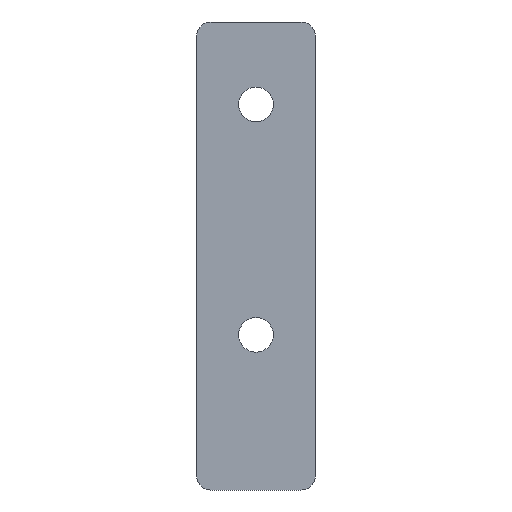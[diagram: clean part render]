
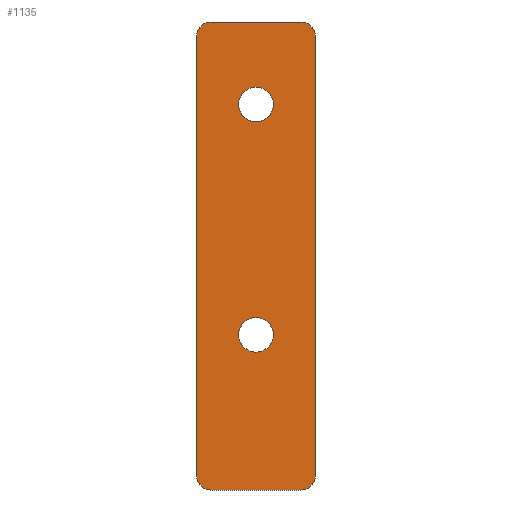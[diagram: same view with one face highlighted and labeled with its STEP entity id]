
A CAD part, front view. The second image highlights one B-rep face of the part: STEP entity #1135.
In plain terms, the highlighted planar face has unit normal (0, -1, 0).
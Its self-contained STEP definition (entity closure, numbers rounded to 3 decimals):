
#1 = CARTESIAN_POINT ( 'NONE',  ( -2.4, -0.3, -6.995 ) ) ;
#50 = DIRECTION ( 'NONE',  ( 1., 0., 0. ) ) ;
#55 = ORIENTED_EDGE ( 'NONE', *, *, #911, .T. ) ;
#78 = VERTEX_POINT ( 'NONE', #1688 ) ;
#95 = CARTESIAN_POINT ( 'NONE',  ( 6.25, -0.3, -28.545 ) ) ;
#140 = DIRECTION ( 'NONE',  ( 0., -1., 0. ) ) ;
#149 = DIRECTION ( 'NONE',  ( 1., 0., 0. ) ) ;
#159 = VECTOR ( 'NONE', #724, 1000. ) ;
#174 = DIRECTION ( 'NONE',  ( 0., 0., 1. ) ) ;
#186 = EDGE_CURVE ( 'NONE', #1291, #749, #493, .T. ) ;
#189 = VERTEX_POINT ( 'NONE', #825 ) ;
#190 = ORIENTED_EDGE ( 'NONE', *, *, #686, .F. ) ;
#194 = CARTESIAN_POINT ( 'NONE',  ( 6.25, -0.3, -26.545 ) ) ;
#208 = CIRCLE ( 'NONE', #1781, 2.4 ) ;
#226 = CARTESIAN_POINT ( 'NONE',  ( -8.25, -0.3, -44.995 ) ) ;
#232 = DIRECTION ( 'NONE',  ( 0., -1., 0. ) ) ;
#244 = EDGE_CURVE ( 'NONE', #1536, #843, #1428, .T. ) ;
#249 = DIRECTION ( 'NONE',  ( 0., -1., 0. ) ) ;
#281 = ORIENTED_EDGE ( 'NONE', *, *, #767, .F. ) ;
#295 = FACE_BOUND ( 'NONE', #1634, .T. ) ;
#299 = CARTESIAN_POINT ( 'NONE',  ( -6.25, -0.3, 34.455 ) ) ;
#330 = VECTOR ( 'NONE', #1454, 1000. ) ;
#376 = CARTESIAN_POINT ( 'NONE',  ( 2.4, -0.3, -6.995 ) ) ;
#400 = DIRECTION ( 'NONE',  ( 1., 0., 0. ) ) ;
#415 = VERTEX_POINT ( 'NONE', #625 ) ;
#453 = CARTESIAN_POINT ( 'NONE',  ( -8.25, -0.3, 34.455 ) ) ;
#473 = EDGE_LOOP ( 'NONE', ( #830, #190 ) ) ;
#493 = CIRCLE ( 'NONE', #1755, 2. ) ;
#506 = CARTESIAN_POINT ( 'NONE',  ( 8.25, -0.3, -28.545 ) ) ;
#549 = PLANE ( 'NONE',  #1705 ) ;
#559 = DIRECTION ( 'NONE',  ( 1., 0., 0. ) ) ;
#622 = LINE ( 'NONE', #1724, #983 ) ;
#625 = CARTESIAN_POINT ( 'NONE',  ( -6.25, -0.3, 36.455 ) ) ;
#647 = EDGE_CURVE ( 'NONE', #415, #1243, #996, .T. ) ;
#686 = EDGE_CURVE ( 'NONE', #843, #1536, #208, .T. ) ;
#697 = ORIENTED_EDGE ( 'NONE', *, *, #1255, .T. ) ;
#703 = FACE_OUTER_BOUND ( 'NONE', #1202, .T. ) ;
#723 = DIRECTION ( 'NONE',  ( 0., -1., 0. ) ) ;
#724 = DIRECTION ( 'NONE',  ( -1., 0., 0. ) ) ;
#739 = LINE ( 'NONE', #226, #330 ) ;
#749 = VERTEX_POINT ( 'NONE', #1102 ) ;
#760 = CARTESIAN_POINT ( 'NONE',  ( -2.4, -0.3, 25.005 ) ) ;
#767 = EDGE_CURVE ( 'NONE', #888, #1447, #899, .T. ) ;
#799 = CIRCLE ( 'NONE', #944, 2.4 ) ;
#813 = CARTESIAN_POINT ( 'NONE',  ( 6.25, -0.3, 34.455 ) ) ;
#825 = CARTESIAN_POINT ( 'NONE',  ( -8.25, -0.3, -26.545 ) ) ;
#830 = ORIENTED_EDGE ( 'NONE', *, *, #244, .F. ) ;
#837 = DIRECTION ( 'NONE',  ( 0., -1., 0. ) ) ;
#843 = VERTEX_POINT ( 'NONE', #1949 ) ;
#844 = CARTESIAN_POINT ( 'NONE',  ( 8.25, -0.3, 34.455 ) ) ;
#871 = DIRECTION ( 'NONE',  ( 1., 0., 0. ) ) ;
#888 = VERTEX_POINT ( 'NONE', #376 ) ;
#899 = CIRCLE ( 'NONE', #1989, 2.4 ) ;
#911 = EDGE_CURVE ( 'NONE', #1934, #78, #1354, .T. ) ;
#926 = DIRECTION ( 'NONE',  ( 0., -1., 0. ) ) ;
#944 = AXIS2_PLACEMENT_3D ( 'NONE', #1784, #232, #1294 ) ;
#960 = LINE ( 'NONE', #1890, #1126 ) ;
#983 = VECTOR ( 'NONE', #174, 1000. ) ;
#989 = CARTESIAN_POINT ( 'NONE',  ( 0., -0.3, 9.005 ) ) ;
#996 = CIRCLE ( 'NONE', #1576, 2. ) ;
#1012 = CARTESIAN_POINT ( 'NONE',  ( 0., -0.3, -6.995 ) ) ;
#1019 = EDGE_CURVE ( 'NONE', #415, #749, #960, .T. ) ;
#1027 = ORIENTED_EDGE ( 'NONE', *, *, #1996, .T. ) ;
#1052 = CARTESIAN_POINT ( 'NONE',  ( 0., -0.3, 25.005 ) ) ;
#1061 = DIRECTION ( 'NONE',  ( 1., 0., 0. ) ) ;
#1091 = EDGE_CURVE ( 'NONE', #1447, #888, #799, .T. ) ;
#1102 = CARTESIAN_POINT ( 'NONE',  ( 6.25, -0.3, 36.455 ) ) ;
#1103 = AXIS2_PLACEMENT_3D ( 'NONE', #194, #1926, #1932 ) ;
#1104 = VERTEX_POINT ( 'NONE', #1481 ) ;
#1126 = VECTOR ( 'NONE', #871, 1000. ) ;
#1135 = ADVANCED_FACE ( 'NONE', ( #703, #295, #1716 ), #549, .T. ) ;
#1161 = ORIENTED_EDGE ( 'NONE', *, *, #1376, .F. ) ;
#1169 = ORIENTED_EDGE ( 'NONE', *, *, #1091, .F. ) ;
#1202 = EDGE_LOOP ( 'NONE', ( #1730, #1870, #1608, #1860, #1027, #697, #1161, #55 ) ) ;
#1243 = VERTEX_POINT ( 'NONE', #453 ) ;
#1248 = DIRECTION ( 'NONE',  ( 0., -1., 0. ) ) ;
#1255 = EDGE_CURVE ( 'NONE', #189, #1104, #1858, .T. ) ;
#1291 = VERTEX_POINT ( 'NONE', #844 ) ;
#1294 = DIRECTION ( 'NONE',  ( 1., 0., 0. ) ) ;
#1354 = CIRCLE ( 'NONE', #1103, 2. ) ;
#1376 = EDGE_CURVE ( 'NONE', #1934, #1104, #1877, .T. ) ;
#1428 = CIRCLE ( 'NONE', #1961, 2.4 ) ;
#1447 = VERTEX_POINT ( 'NONE', #1 ) ;
#1454 = DIRECTION ( 'NONE',  ( 0., 0., -1. ) ) ;
#1461 = EDGE_CURVE ( 'NONE', #78, #1291, #622, .T. ) ;
#1481 = CARTESIAN_POINT ( 'NONE',  ( -6.25, -0.3, -28.545 ) ) ;
#1536 = VERTEX_POINT ( 'NONE', #760 ) ;
#1576 = AXIS2_PLACEMENT_3D ( 'NONE', #299, #1248, #149 ) ;
#1608 = ORIENTED_EDGE ( 'NONE', *, *, #1019, .F. ) ;
#1634 = EDGE_LOOP ( 'NONE', ( #1169, #281 ) ) ;
#1659 = DIRECTION ( 'NONE',  ( 0., -1., 0. ) ) ;
#1688 = CARTESIAN_POINT ( 'NONE',  ( 8.25, -0.3, -26.545 ) ) ;
#1705 = AXIS2_PLACEMENT_3D ( 'NONE', #989, #1659, #559 ) ;
#1716 = FACE_BOUND ( 'NONE', #473, .T. ) ;
#1724 = CARTESIAN_POINT ( 'NONE',  ( 8.25, -0.3, -44.995 ) ) ;
#1730 = ORIENTED_EDGE ( 'NONE', *, *, #1461, .T. ) ;
#1755 = AXIS2_PLACEMENT_3D ( 'NONE', #813, #837, #50 ) ;
#1781 = AXIS2_PLACEMENT_3D ( 'NONE', #2032, #926, #1882 ) ;
#1784 = CARTESIAN_POINT ( 'NONE',  ( 0., -0.3, -6.995 ) ) ;
#1789 = DIRECTION ( 'NONE',  ( 1., 0., 0. ) ) ;
#1858 = CIRCLE ( 'NONE', #2002, 2. ) ;
#1860 = ORIENTED_EDGE ( 'NONE', *, *, #647, .T. ) ;
#1870 = ORIENTED_EDGE ( 'NONE', *, *, #186, .T. ) ;
#1877 = LINE ( 'NONE', #506, #159 ) ;
#1882 = DIRECTION ( 'NONE',  ( 1., 0., 0. ) ) ;
#1890 = CARTESIAN_POINT ( 'NONE',  ( 8.25, -0.3, 36.455 ) ) ;
#1926 = DIRECTION ( 'NONE',  ( 0., -1., 0. ) ) ;
#1932 = DIRECTION ( 'NONE',  ( 1., 0., 0. ) ) ;
#1934 = VERTEX_POINT ( 'NONE', #95 ) ;
#1949 = CARTESIAN_POINT ( 'NONE',  ( 2.4, -0.3, 25.005 ) ) ;
#1961 = AXIS2_PLACEMENT_3D ( 'NONE', #1052, #723, #1789 ) ;
#1989 = AXIS2_PLACEMENT_3D ( 'NONE', #1012, #249, #400 ) ;
#1996 = EDGE_CURVE ( 'NONE', #1243, #189, #739, .T. ) ;
#2002 = AXIS2_PLACEMENT_3D ( 'NONE', #2027, #140, #1061 ) ;
#2027 = CARTESIAN_POINT ( 'NONE',  ( -6.25, -0.3, -26.545 ) ) ;
#2032 = CARTESIAN_POINT ( 'NONE',  ( 0., -0.3, 25.005 ) ) ;
